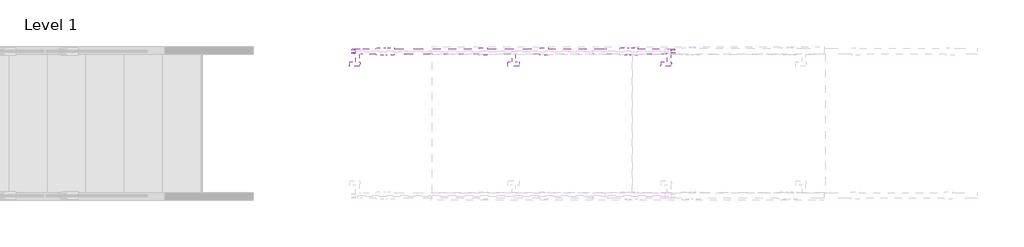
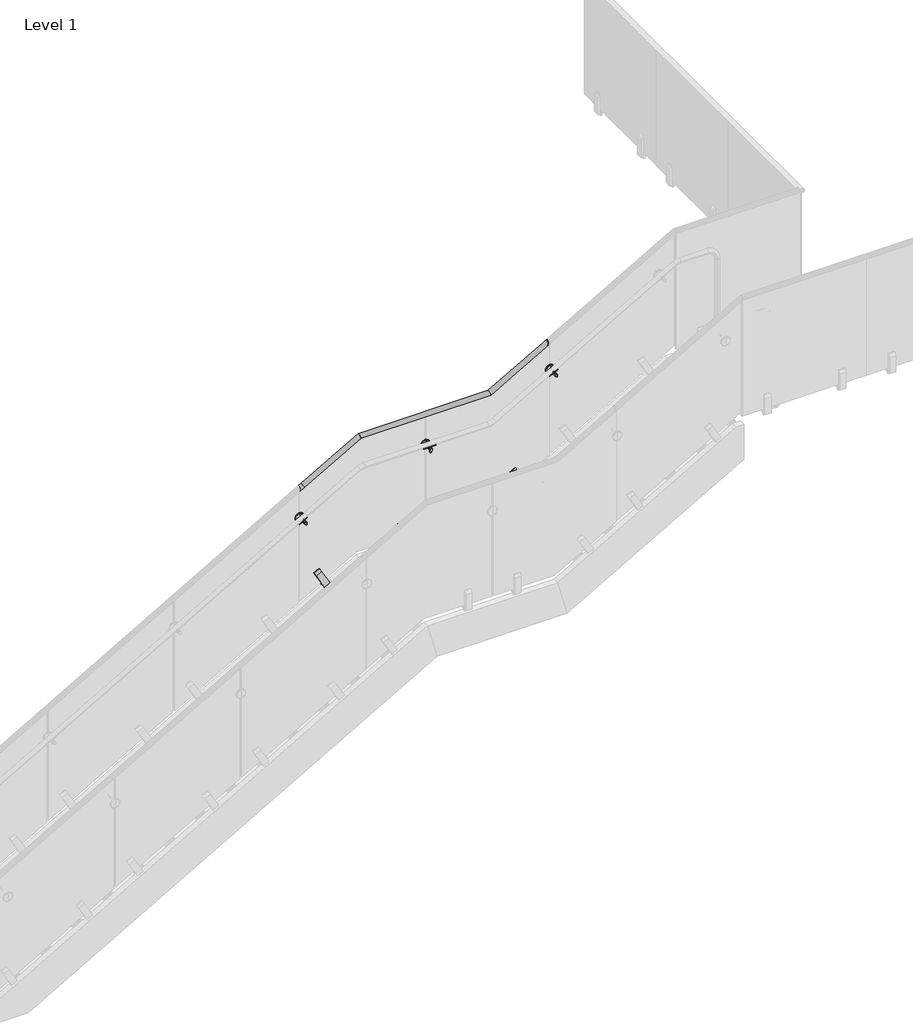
# One storey, part 6 of 17: 1 railing.
"""IFC4 building model written with IfcOpenShell, lengths in millimetres."""

from ifc_helpers import new_model, si_unit, point, frame, frame_2d, origin, place, context, project, spatial, polyline, circle_curve, ellipse_curve, trimmed, segment, composite_curve, outline, extrude, element, save
from ifc_brep_helpers import plane_surface, cylinder_surface, revolved_surface, advanced_brep

model = new_model("IFC4")

# Units and contexts
model_context = context("Model", 3, world=origin())
ifc_project = project(units=[si_unit("LENGTHUNIT", "METRE", prefix="MILLI")], contexts=[model_context])

# Site, building, storey
site = spatial("IfcSite", under=ifc_project)
building = spatial("IfcBuilding", under=site)
storey = spatial("IfcBuildingStorey", under=building, Name="Level 1", Elevation=0.0)

# Railing
placement = place(None, origin())
element("IfcRailing", 1, ObjectType="VIVA-VISIO-Glass-Steel Surface Mount-Stair-Landing", at=placement, inside=storey, context=model_context, shape_type="SolidModel", body=[
    advanced_brep(
    [(27409.6773931, -21080.9070565, 2977.4583674), (27409.7053311, -21103.8417549, 2977.4094758), (27869.7292424, -21103.8417549, 3240.2802823), (27869.7142882, -21080.9070565, 3240.3365932), (27408.4065092, -21086.0617549, 2979.6824142), (27869.0340321, -21086.0617549, 3242.8981415), (27396.2707818, -21086.0617549, 3000.9199372), (27862.5382355, -21086.0617549, 3267.3584821), (27396.2707818, -21098.7617549, 3000.9199372), (27862.5382355, -21098.7617549, 3267.3584821), (27408.4451382, -21098.7617549, 2979.6148134), (27869.0547087, -21098.7617549, 3242.8202823), (28936.5292424, -21103.8417549, 3240.2802823), (28936.5142882, -21080.9070565, 3240.3365932), (28935.8340321, -21086.0617549, 3242.8981415), (28929.3382355, -21086.0617549, 3267.3584821), (28929.3382355, -21098.7617549, 3267.3584821), (28935.8547087, -21098.7617549, 3242.8202823), (29408.2362561, -21103.8417549, 3509.8271473), (29408.2362561, -21098.7617549, 3512.7525951), (29408.2362561, -21098.7617549, 3541.0144939), (29408.2362561, -21086.0617549, 3541.0144939), (29408.2362561, -21086.0617549, 3512.8422695), (29408.2362561, -21080.9070565, 3509.8920034), (27369.8862561, -21103.8417549, 2954.6557187), (27369.8862561, -21080.9070565, 2954.7205748), (27369.8862561, -21086.0617549, 2957.670841), (27369.8862561, -21086.0617549, 2985.8430653), (27369.8862561, -21098.7617549, 2985.8430653), (27369.8862561, -21098.7617549, 2957.5811665)],
    [
        (0, 1, circle_curve(frame((27402.1441737, -21092.4117549, 2990.6415013), z_axis=(0.8682431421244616, 0.0, 0.49613893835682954), x_axis=(0.0, 1.0, 0.0)), 19.05)),
        (1, 2),
        (2, 3, ellipse_curve(frame((27865.6820404, -21092.4117549, 3255.5202823), z_axis=(-0.9664996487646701, 0.0, -0.2566679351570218), x_axis=(0.2566679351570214, 0.0, -0.9664996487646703)), 19.710302, 19.05)),
        (3, 0),
        (4, 0, circle_curve(frame((27408.4065092, -21082.8479446, 2979.6824142), z_axis=(0.8682431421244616, 0.0, 0.49613893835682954), x_axis=(0.0, 1.0, 0.0)), 3.2138103)),
        (3, 5, ellipse_curve(frame((27869.0340321, -21082.8479446, 3242.8981415), z_axis=(-0.9664996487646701, 0.0, -0.2566679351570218), x_axis=(0.2566679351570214, 0.0, -0.9664996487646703)), 3.3252058, 3.2138103)),
        (5, 4),
        (6, 4),
        (5, 7),
        (7, 6),
        (8, 6),
        (7, 9),
        (9, 8),
        (10, 8),
        (9, 11),
        (11, 10),
        (1, 10, circle_curve(frame((27408.4451382, -21101.9367549, 2979.6148134), z_axis=(0.8682431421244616, 0.0, 0.49613893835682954), x_axis=(0.0, 1.0, 0.0)), 3.175)),
        (11, 2, ellipse_curve(frame((27869.0547087, -21101.9367549, 3242.8202823), z_axis=(-0.9664996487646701, 0.0, -0.2566679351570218), x_axis=(0.2566679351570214, 0.0, -0.9664996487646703)), 3.2850503, 3.175)),
        (2, 12),
        (12, 13, ellipse_curve(frame((28932.4820404, -21092.4117549, 3255.5202823), z_axis=(-0.9664996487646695, 0.0, -0.25666793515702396), x_axis=(-0.2566679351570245, 0.0, 0.9664996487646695)), 19.710302, 19.05)),
        (13, 3),
        (13, 14, ellipse_curve(frame((28935.8340321, -21082.8479446, 3242.8981415), z_axis=(-0.9664996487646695, 0.0, -0.25666793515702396), x_axis=(-0.2566679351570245, 0.0, 0.9664996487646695)), 3.3252058, 3.2138103)),
        (14, 5),
        (14, 15),
        (15, 7),
        (15, 16),
        (16, 9),
        (16, 17),
        (17, 11),
        (17, 12, ellipse_curve(frame((28935.8547087, -21101.9367549, 3242.8202823), z_axis=(-0.9664996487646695, 0.0, -0.25666793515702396), x_axis=(-0.2566679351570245, 0.0, 0.9664996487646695)), 3.2850503, 3.175)),
        (18, 19, ellipse_curve(frame((29408.2362561, -21101.9367549, 3512.7525951), z_axis=(1.0, 0.0, 0.0), x_axis=(0.0, 0.0, -0.9999999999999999)), 3.6568098, 3.175)),
        (19, 20),
        (20, 21),
        (21, 22),
        (22, 23, ellipse_curve(frame((29408.2362561, -21082.8479446, 3512.8422695), z_axis=(1.0, 0.0, 0.0), x_axis=(0.0, 0.0, -0.9999999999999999)), 3.7015096, 3.2138103)),
        (23, 18, ellipse_curve(frame((29408.2362561, -21092.4117549, 3527.3798341), z_axis=(1.0, 0.0, 0.0), x_axis=(0.0, 0.0, -0.9999999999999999)), 21.9408586, 19.05)),
        (12, 18),
        (23, 13),
        (22, 14),
        (21, 15),
        (20, 16),
        (19, 17),
        (24, 25, ellipse_curve(frame((27369.8862561, -21092.4117549, 2972.2084056), z_axis=(-1.0, 0.0, 0.0), x_axis=(0.0, 0.0, -0.9999999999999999)), 21.9408586, 19.05)),
        (25, 26, ellipse_curve(frame((27369.8862561, -21082.8479446, 2957.670841), z_axis=(-1.0, 0.0, 0.0), x_axis=(0.0, 0.0, -0.9999999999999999)), 3.7015096, 3.2138103)),
        (26, 27),
        (27, 28),
        (28, 29),
        (29, 24, ellipse_curve(frame((27369.8862561, -21101.9367549, 2957.5811665), z_axis=(-1.0, 0.0, 0.0), x_axis=(0.0, 0.0, -0.9999999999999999)), 3.6568098, 3.175)),
        (24, 1),
        (0, 25),
        (4, 26),
        (6, 27),
        (8, 28),
        (10, 29),
    ],
    [
        cylinder_surface(frame((27402.1441737, -21092.4117549, 2990.6415013), z_axis=(-0.8682431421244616, 0.0, -0.49613893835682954), x_axis=(0.0, 1.0, 0.0)), 19.05),
        cylinder_surface(frame((27408.4065092, -21082.8479446, 2979.6824142), z_axis=(-0.8682431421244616, 0.0, -0.49613893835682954), x_axis=(0.0, 1.0, 0.0)), 3.2138103),
        plane_surface(frame((27408.4065092, -21086.0617549, 2979.6824142), z_axis=(0.0, -1.0, 0.0), x_axis=(0.86824314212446, 0.0, 0.49613893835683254))),
        plane_surface(frame((27396.2707818, -21086.0617549, 3000.9199372), z_axis=(0.4961389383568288, 0.0, -0.8682431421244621), x_axis=(0.8682431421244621, 0.0, 0.4961389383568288))),
        plane_surface(frame((27396.2707818, -21098.7617549, 3000.9199372), z_axis=(0.0, 1.0, 0.0), x_axis=(0.8682431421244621, 0.0, 0.4961389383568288))),
        cylinder_surface(frame((27408.4451382, -21101.9367549, 2979.6148134), z_axis=(-0.8682431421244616, 0.0, -0.49613893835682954), x_axis=(0.0, 1.0, 0.0)), 3.175),
        cylinder_surface(frame((27862.0112561, -21092.4117549, 3255.5202823), z_axis=(-1.0, 0.0, 0.0), x_axis=(0.0, 1.0, 0.0)), 19.05),
        cylinder_surface(frame((27862.0112561, -21082.8479446, 3242.8981415), z_axis=(-1.0, 0.0, 0.0), x_axis=(0.0, 1.0, 0.0)), 3.2138103),
        plane_surface(frame((27869.0340321, -21086.0617549, 3242.8981415), z_axis=(0.0, -1.0, 0.0), x_axis=(1.0, 0.0, 0.0))),
        plane_surface(frame((27862.5382355, -21086.0617549, 3267.3584821), z_axis=(0.0, 0.0, -1.0), x_axis=(1.0, 0.0, 0.0))),
        plane_surface(frame((27862.5382355, -21098.7617549, 3267.3584821), z_axis=(0.0, 1.0, 0.0), x_axis=(1.0, 0.0, 0.0))),
        cylinder_surface(frame((27862.0112561, -21101.9367549, 3242.8202823), z_axis=(-1.0, 0.0, 0.0), x_axis=(0.0, 1.0, 0.0)), 3.175),
        plane_surface(frame((29408.2362561, -21092.4117549, 3543.3), z_axis=(1.0, 0.0, 0.0), x_axis=(0.0, 1.0, 0.0))),
        cylinder_surface(frame((28935.6691737, -21092.4117549, 3257.3415013), z_axis=(-0.8682431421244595, 0.0, -0.49613893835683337), x_axis=(0.0, 1.0, 0.0)), 19.05),
        cylinder_surface(frame((28941.9315092, -21082.8479446, 3246.3824142), z_axis=(-0.8682431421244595, 0.0, -0.49613893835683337), x_axis=(0.0, 1.0, 0.0)), 3.2138103),
        plane_surface(frame((28935.8340321, -21086.0617549, 3242.8981415), z_axis=(0.0, -1.0, 0.0), x_axis=(0.8682431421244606, 0.0, 0.49613893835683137))),
        plane_surface(frame((28929.3382355, -21086.0617549, 3267.3584821), z_axis=(0.4961389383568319, 0.0, -0.8682431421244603), x_axis=(0.8682431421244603, 0.0, 0.4961389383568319))),
        plane_surface(frame((28929.3382355, -21098.7617549, 3267.3584821), z_axis=(0.0, 1.0, 0.0), x_axis=(0.8682431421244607, 0.0, 0.49613893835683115))),
        cylinder_surface(frame((28941.9701382, -21101.9367549, 3246.3148134), z_axis=(-0.8682431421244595, 0.0, -0.49613893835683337), x_axis=(0.0, 1.0, 0.0)), 3.175),
        plane_surface(frame((27369.8862561, -21092.4117549, 2988.1285714), z_axis=(-1.0, 0.0, 0.0), x_axis=(0.0, 1.0, 0.0))),
        cylinder_surface(frame((27376.7441737, -21092.4117549, 2976.1272156), z_axis=(-0.8682431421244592, 0.0, -0.4961389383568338), x_axis=(0.0, 1.0, 0.0)), 19.05),
        cylinder_surface(frame((27383.0065092, -21082.8479446, 2965.1681285), z_axis=(-0.8682431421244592, 0.0, -0.4961389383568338), x_axis=(0.0, 1.0, 0.0)), 3.2138103),
        plane_surface(frame((27369.8862561, -21086.0617549, 2957.670841), z_axis=(0.0, -1.0, 0.0), x_axis=(0.8682431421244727, 0.0, 0.49613893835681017))),
        plane_surface(frame((27369.8862561, -21086.0617549, 2985.8430653), z_axis=(0.49613893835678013, 0.0, -0.8682431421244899), x_axis=(0.8682431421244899, 0.0, 0.49613893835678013))),
        plane_surface(frame((27369.8862561, -21098.7617549, 2985.8430653), z_axis=(0.0, 1.0, 0.0), x_axis=(0.8682431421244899, 0.0, 0.49613893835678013))),
        cylinder_surface(frame((27383.0451382, -21101.9367549, 2965.1005277), z_axis=(-0.8682431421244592, 0.0, -0.4961389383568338), x_axis=(0.0, 1.0, 0.0)), 3.175),
    ],
    [
        (0, [[1, 2, 3, 4]]),
        (1, [[5, -4, 6, 7]]),
        (2, [[8, -7, 9, 10]]),
        (3, [[11, -10, 12, 13]]),
        (4, [[14, -13, 15, 16]]),
        (5, [[17, -16, 18, -2]]),
        (6, [[-3, 19, 20, 21]]),
        (7, [[-6, -21, 22, 23]]),
        (8, [[-9, -23, 24, 25]]),
        (9, [[-12, -25, 26, 27]]),
        (10, [[-15, -27, 28, 29]]),
        (11, [[-18, -29, 30, -19]]),
        (12, [[31, 32, 33, 34, 35, 36]]),
        (13, [[-20, 37, -36, 38]]),
        (14, [[-22, -38, -35, 39]]),
        (15, [[-24, -39, -34, 40]]),
        (16, [[-26, -40, -33, 41]]),
        (17, [[-28, -41, -32, 42]]),
        (18, [[-30, -42, -31, -37]]),
        (19, [[43, 44, 45, 46, 47, 48]]),
        (20, [[-43, 49, -1, 50]]),
        (21, [[-44, -50, -5, 51]]),
        (22, [[-45, -51, -8, 52]]),
        (23, [[-46, -52, -11, 53]]),
        (24, [[-47, -53, -14, 54]]),
        (25, [[-48, -54, -17, -49]]),
    ],
),
    extrude(outline(polyline([(0.0, -12.7), (0.0, 0.0), (50.8, 0.0), (50.8, -12.7), (0.0, -12.7)])), frame((29184.8878803, -21086.0617549, 2357.936753), z_axis=(-0.49613893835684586, 0.0, 0.8682431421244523), x_axis=(0.8682431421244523, 0.0, 0.49613893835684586)), (0.0, 0.0, 1.0), 50.8),
    extrude(outline(polyline([(0.0, 0.0), (139.7, 0.0), (166.6875, -11.1125), (166.6875, -19.05), (0.0, -19.05), (0.0, 0.0)])), frame((29177.7992952, -21117.8117549, 2370.3417769), z_axis=(0.8682431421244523, 0.0, 0.49613893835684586), x_axis=(-0.49613893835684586, 0.0, 0.8682431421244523)), (0.0, 0.0, 1.0), 50.8),
    extrude(outline(polyline([(0.0, -50.8), (0.0, -31.75), (166.6875, -31.75), (166.6875, -39.6875), (139.7, -50.8), (0.0, -50.8)])), frame((29177.7992952, -21117.8117549, 2370.3417769), z_axis=(0.8682431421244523, 0.0, 0.49613893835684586), x_axis=(-0.49613893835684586, 0.0, 0.8682431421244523)), (0.0, 0.0, 1.0), 50.8),
    extrude(outline(polyline([(28577.6562561, -21098.7617549), (28577.6562561, -21086.0617549), (28628.4562561, -21086.0617549), (28628.4562561, -21098.7617549), (28577.6562561, -21098.7617549)])), frame((0.0, 0.0, 2208.8928571), z_axis=(0.0, 0.0, 1.0), x_axis=(1.0, 0.0, 0.0)), (0.0, 0.0, 1.0), 50.8),
    extrude(outline(polyline([(-21117.8117549, 2223.1803571), (-21117.8117549, 2362.8803571), (-21106.6992549, 2389.8678571), (-21098.7617549, 2389.8678571), (-21098.7617549, 2223.1803571), (-21117.8117549, 2223.1803571)])), frame((28577.6562561, 0.0, 0.0), z_axis=(1.0, 0.0, 0.0), x_axis=(0.0, 1.0, 0.0)), (0.0, 0.0, 1.0), 50.8),
    extrude(outline(polyline([(-21067.0117549, 2223.1803571), (-21086.0617549, 2223.1803571), (-21086.0617549, 2389.8678571), (-21078.1242549, 2389.8678571), (-21067.0117549, 2362.8803571), (-21067.0117549, 2223.1803571)])), frame((28577.6562561, 0.0, 0.0), z_axis=(1.0, 0.0, 0.0), x_axis=(0.0, 1.0, 0.0)), (0.0, 0.0, 1.0), 50.8),
    extrude(outline(composite_curve([segment(trimmed(circle_curve(frame_2d((0.0, 7.0)), 7.0), [point((0.0, 14.0))], [point((0.0, 0.0))], False, "CARTESIAN"), True, "CONTINUOUS"), segment(trimmed(circle_curve(frame_2d((0.0, 7.0)), 7.0), [point((0.0, 0.0))], [point((0.0, 14.0))], False, "CARTESIAN"), True, "CONTINUOUS")], self_intersect=False)), frame((28401.7612561, -21167.6316158, 2977.3279722), z_axis=(-0.0016124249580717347, 0.0, 0.9999987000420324), x_axis=(-0.9999987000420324, 0.0, -0.0016124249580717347)), (0.0, 0.0, 1.0), 52.8378352),
    extrude(outline(composite_curve([segment(trimmed(circle_curve(frame_2d((18.6575252, 0.3952033)), 19.05), [point((5.2466064, 13.9247915))], [point((5.2466064, -13.134385))], True, "CARTESIAN"), True, "CONTINUOUS"), segment(polyline([(5.2466064, -13.134385), (4.2292193, -14.1607746)]), True, "CONTINUOUS"), segment(trimmed(circle_curve(frame_2d((3.1638974, -13.1047967)), 1.5), [point((4.2292193, -14.1607746))], [point((2.0329757, -14.0901982))], False, "CARTESIAN"), True, "CONTINUOUS"), segment(trimmed(circle_curve(frame_2d((18.6575252, 0.3952033)), 22.05), [point((2.0329757, -14.0901982))], [point((2.0329757, 14.8806047))], False, "CARTESIAN"), True, "CONTINUOUS"), segment(trimmed(circle_curve(frame_2d((3.1638974, 13.8952033)), 1.5), [point((2.0329757, 14.8806047))], [point((4.2292193, 14.9511811))], False, "CARTESIAN"), True, "CONTINUOUS"), segment(polyline([(4.2292193, 14.9511811), (5.2466064, 13.9247915)]), True, "CONTINUOUS")], self_intersect=False)), frame((28437.5288142, -21176.3588481, 3033.4996008), z_axis=(-0.9999989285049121, 0.0, 0.0014638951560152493), x_axis=(0.0014638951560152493, 0.0, 0.9999989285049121)), (0.0, 0.0, 1.0), 74.5229187),
    extrude(outline(composite_curve([segment(trimmed(circle_curve(frame_2d((3002.8968571, 28401.7612561)), 11.0132813), [point((3002.8968571, 28412.7745373))], [point((3002.8968571, 28390.7479748))], False, "CARTESIAN"), True, "CONTINUOUS"), segment(trimmed(circle_curve(frame_2d((3002.8968571, 28401.7612561)), 11.0132813), [point((3002.8968571, 28390.7479748))], [point((3002.8968571, 28412.7745373))], False, "CARTESIAN"), True, "CONTINUOUS")], self_intersect=False)), frame((0.0, -21187.6617549, 0.0), z_axis=(0.0, 1.0, 0.0), x_axis=(0.0, 0.0, 1.0)), (0.0, 0.0, 1.0), 79.2757812),
    advanced_brep(
    [(28401.7612561, -21076.4375361, 3002.8968571), (28401.7612561, -21076.4375361, 2966.7812321), (28401.7612561, -21076.4375361, 3039.0124821), (28401.7612561, -21108.3859736, 2966.7812321), (28401.7612561, -21108.3859736, 3002.8968571), (28401.7612561, -21108.3859736, 3039.0124821), (28401.7612561, -21106.4015986, 2964.7968571), (28401.7612561, -21106.4015986, 3040.9968571), (28401.7612561, -21098.7617549, 2964.7968571), (28401.7612561, -21098.7617549, 3040.9968571), (28401.7612561, -21098.7617549, 2990.1968571), (28401.7612561, -21098.7617549, 3015.5968571), (28401.7612561, -21086.0617549, 2990.1968571), (28401.7612561, -21086.0617549, 3015.5968571), (28401.7612561, -21086.0617549, 2964.7968571), (28401.7612561, -21086.0617549, 3040.9968571), (28401.7612561, -21078.4219111, 2964.7968571), (28401.7612561, -21078.4219111, 3040.9968571)],
    [
        (0, 1),
        (1, 2, circle_curve(frame((28401.7612561, -21076.4375361, 3002.8968571), z_axis=(0.0, 1.0, 0.0), x_axis=(0.0, 0.0, 1.0)), 36.115625)),
        (2, 0),
        (2, 1, circle_curve(frame((28401.7612561, -21076.4375361, 3002.8968571), z_axis=(0.0, 1.0, 0.0), x_axis=(0.0, 0.0, 1.0)), 36.115625)),
        (3, 4),
        (4, 5),
        (5, 3, circle_curve(frame((28401.7612561, -21108.3859736, 3002.8968571), z_axis=(0.0, -1.0, 0.0), x_axis=(0.0, 0.0, 1.0)), 36.115625)),
        (3, 5, circle_curve(frame((28401.7612561, -21108.3859736, 3002.8968571), z_axis=(0.0, -1.0, 0.0), x_axis=(0.0, 0.0, 1.0)), 36.115625)),
        (6, 3),
        (5, 7),
        (7, 6, circle_curve(frame((28401.7612561, -21106.4015986, 3002.8968571), z_axis=(0.0, -1.0, 0.0), x_axis=(0.0, 0.0, 1.0)), 38.1)),
        (6, 7, circle_curve(frame((28401.7612561, -21106.4015986, 3002.8968571), z_axis=(0.0, -1.0, 0.0), x_axis=(0.0, 0.0, 1.0)), 38.1)),
        (8, 6),
        (7, 9),
        (9, 8, circle_curve(frame((28401.7612561, -21098.7617549, 3002.8968571), z_axis=(0.0, -1.0, 0.0), x_axis=(0.0, 0.0, 1.0)), 38.1)),
        (8, 9, circle_curve(frame((28401.7612561, -21098.7617549, 3002.8968571), z_axis=(0.0, -1.0, 0.0), x_axis=(0.0, 0.0, 1.0)), 38.1)),
        (10, 8),
        (9, 11),
        (11, 10, circle_curve(frame((28401.7612561, -21098.7617549, 3002.8968571), z_axis=(0.0, -1.0, 0.0), x_axis=(0.0, 0.0, 1.0)), 12.7)),
        (10, 11, circle_curve(frame((28401.7612561, -21098.7617549, 3002.8968571), z_axis=(0.0, -1.0, 0.0), x_axis=(0.0, 0.0, 1.0)), 12.7)),
        (12, 10),
        (11, 13),
        (13, 12, circle_curve(frame((28401.7612561, -21086.0617549, 3002.8968571), z_axis=(0.0, -1.0, 0.0), x_axis=(0.0, 0.0, 1.0)), 12.7)),
        (12, 13, circle_curve(frame((28401.7612561, -21086.0617549, 3002.8968571), z_axis=(0.0, -1.0, 0.0), x_axis=(0.0, 0.0, 1.0)), 12.7)),
        (14, 12),
        (13, 15),
        (15, 14, circle_curve(frame((28401.7612561, -21086.0617549, 3002.8968571), z_axis=(0.0, -1.0, 0.0), x_axis=(0.0, 0.0, 1.0)), 38.1)),
        (14, 15, circle_curve(frame((28401.7612561, -21086.0617549, 3002.8968571), z_axis=(0.0, -1.0, 0.0), x_axis=(0.0, 0.0, 1.0)), 38.1)),
        (16, 14),
        (15, 17),
        (17, 16, circle_curve(frame((28401.7612561, -21078.4219111, 3002.8968571), z_axis=(0.0, -1.0, 0.0), x_axis=(0.0, 0.0, 1.0)), 38.1)),
        (16, 17, circle_curve(frame((28401.7612561, -21078.4219111, 3002.8968571), z_axis=(0.0, -1.0, 0.0), x_axis=(0.0, 0.0, 1.0)), 38.1)),
        (1, 16),
        (17, 2),
    ],
    [
        plane_surface(frame((28401.7612561, -21076.4375361, 3002.8968571), z_axis=(0.0, 1.0, 0.0), x_axis=(0.0, 0.0, 1.0))),
        plane_surface(frame((28401.7612561, -21108.3859736, 3002.8968571), z_axis=(0.0, -1.0, 0.0), x_axis=(0.0, 0.0, 1.0))),
        revolved_surface(polyline([(28401.7612561, -21108.3859736, 3039.0124821), (28401.7612561, -21106.4015986, 3040.9968571)]), (28401.7612561, -21040.3219111, 3002.8968571), (0.0, 1.0, 0.0)),
        cylinder_surface(frame((28401.7612561, -21040.3219111, 3002.8968571), z_axis=(0.0, 1.0, 0.0), x_axis=(0.0, 0.0, 1.0)), 38.1),
        plane_surface(frame((28401.7612561, -21098.7617549, 3002.8968571), z_axis=(0.0, 1.0, 0.0), x_axis=(0.0, 0.0, 1.0))),
        cylinder_surface(frame((28401.7612561, -21040.3219111, 3002.8968571), z_axis=(0.0, 1.0, 0.0), x_axis=(0.0, 0.0, 1.0)), 12.7),
        plane_surface(frame((28401.7612561, -21086.0617549, 3002.8968571), z_axis=(0.0, -1.0, 0.0), x_axis=(0.0, 0.0, 1.0))),
        revolved_surface(polyline([(28401.7612561, -21078.4219111, 3040.9968571), (28401.7612561, -21076.4375361, 3039.0124821)]), (28401.7612561, -21040.3219111, 3002.8968571), (0.0, 1.0, 0.0)),
    ],
    [
        (0, [[1, 2, 3]]),
        (0, [[-3, 4, -1]]),
        (1, [[5, 6, 7]]),
        (1, [[-6, -5, 8]]),
        (2, [[9, -7, 10, 11]]),
        (2, [[-10, -8, -9, 12]]),
        (3, [[13, -11, 14, 15]]),
        (3, [[-14, -12, -13, 16]]),
        (4, [[17, -15, 18, 19]]),
        (4, [[-18, -16, -17, 20]]),
        (5, [[21, -19, 22, 23]]),
        (5, [[-22, -20, -21, 24]]),
        (6, [[25, -23, 26, 27]]),
        (6, [[-26, -24, -25, 28]]),
        (3, [[29, -27, 30, 31]]),
        (3, [[-30, -28, -29, 32]]),
        (7, [[33, -31, 34, -2]]),
        (7, [[-34, -32, -33, -4]]),
    ],
),
    extrude(outline(polyline([(28175.0662561, -21098.7617549), (28175.0662561, -21086.0617549), (28225.8662561, -21086.0617549), (28225.8662561, -21098.7617549), (28175.0662561, -21098.7617549)])), frame((0.0, 0.0, 2208.8928571), z_axis=(0.0, 0.0, 1.0), x_axis=(1.0, 0.0, 0.0)), (0.0, 0.0, 1.0), 50.8),
    extrude(outline(polyline([(-21117.8117549, 2223.1803571), (-21117.8117549, 2362.8803571), (-21106.6992549, 2389.8678571), (-21098.7617549, 2389.8678571), (-21098.7617549, 2223.1803571), (-21117.8117549, 2223.1803571)])), frame((28175.0662561, 0.0, 0.0), z_axis=(1.0, 0.0, 0.0), x_axis=(0.0, 1.0, 0.0)), (0.0, 0.0, 1.0), 50.8),
    extrude(outline(polyline([(-21067.0117549, 2223.1803571), (-21086.0617549, 2223.1803571), (-21086.0617549, 2389.8678571), (-21078.1242549, 2389.8678571), (-21067.0117549, 2362.8803571), (-21067.0117549, 2223.1803571)])), frame((28175.0662561, 0.0, 0.0), z_axis=(1.0, 0.0, 0.0), x_axis=(0.0, 1.0, 0.0)), (0.0, 0.0, 1.0), 50.8),
    extrude(outline(polyline([(0.0, -12.7), (0.0, 0.0), (50.8, 0.0), (50.8, -12.7), (0.0, -12.7)])), frame((27574.5278803, -21086.0617549, 2047.3310387), z_axis=(-0.49613893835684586, 0.0, 0.8682431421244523), x_axis=(0.8682431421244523, 0.0, 0.49613893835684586)), (0.0, 0.0, 1.0), 50.8),
    extrude(outline(polyline([(0.0, 0.0), (139.7, 0.0), (166.6875, -11.1125), (166.6875, -19.05), (0.0, -19.05), (0.0, 0.0)])), frame((27567.4392952, -21117.8117549, 2059.7360626), z_axis=(0.8682431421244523, 0.0, 0.49613893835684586), x_axis=(-0.49613893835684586, 0.0, 0.8682431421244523)), (0.0, 0.0, 1.0), 50.8),
    extrude(outline(polyline([(0.0, -50.8), (0.0, -31.75), (166.6875, -31.75), (166.6875, -39.6875), (139.7, -50.8), (0.0, -50.8)])), frame((27567.4392952, -21117.8117549, 2059.7360626), z_axis=(0.8682431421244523, 0.0, 0.49613893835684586), x_axis=(-0.49613893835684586, 0.0, 0.8682431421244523)), (0.0, 0.0, 1.0), 50.8),
    extrude(outline(composite_curve([segment(trimmed(circle_curve(frame_2d((0.0, 7.0)), 7.0), [point((0.0, 14.0))], [point((0.0, 0.0))], False, "CARTESIAN"), True, "CONTINUOUS"), segment(trimmed(circle_curve(frame_2d((0.0, 7.0)), 7.0), [point((0.0, 0.0))], [point((0.0, 14.0))], False, "CARTESIAN"), True, "CONTINUOUS")], self_intersect=False)), frame((29438.8124492, -21167.6316158, 3274.0214845), z_axis=(-0.5018548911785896, 0.0, 0.8649518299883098), x_axis=(-0.8649518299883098, 0.0, -0.5018548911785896)), (0.0, 0.0, 1.0), 52.8378352),
    extrude(outline(composite_curve([segment(polyline([(5.2466063, -13.9247915), (4.2292193, -14.9511811)]), True, "CONTINUOUS"), segment(trimmed(circle_curve(frame_2d((3.1638973, -13.8952033)), 1.5), [point((4.2292193, -14.9511811))], [point((2.0329756, -14.8806047))], False, "CARTESIAN"), True, "CONTINUOUS"), segment(trimmed(circle_curve(frame_2d((18.6575251, -0.3952033)), 22.05), [point((2.0329756, -14.8806047))], [point((2.0329756, 14.0901982))], False, "CARTESIAN"), True, "CONTINUOUS"), segment(trimmed(circle_curve(frame_2d((3.1638973, 13.1047967)), 1.5), [point((2.0329756, 14.0901982))], [point((4.2292193, 14.1607746))], False, "CARTESIAN"), True, "CONTINUOUS"), segment(polyline([(4.2292193, 14.1607746), (5.2466063, 13.134385)]), True, "CONTINUOUS"), segment(trimmed(circle_curve(frame_2d((18.6575251, -0.3952033)), 19.05), [point((5.2466063, 13.134385))], [point((5.2466063, -13.9247915))], True, "CARTESIAN"), True, "CONTINUOUS")], self_intersect=False)), frame((29374.3446671, -21176.3588481, 3301.7626674), z_axis=(0.8664916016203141, 0.0, 0.49919165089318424), x_axis=(-0.49919165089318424, 0.0, 0.8664916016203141)), (0.0, 0.0, 1.0), 74.5229187),
    extrude(outline(composite_curve([segment(trimmed(circle_curve(frame_2d((3296.158, 29426.0162561)), 11.0132813), [point((3296.158, 29437.0295373))], [point((3296.158, 29415.0029748))], False, "CARTESIAN"), True, "CONTINUOUS"), segment(trimmed(circle_curve(frame_2d((3296.158, 29426.0162561)), 11.0132813), [point((3296.158, 29415.0029748))], [point((3296.158, 29437.0295373))], False, "CARTESIAN"), True, "CONTINUOUS")], self_intersect=False)), frame((0.0, -21187.6617549, 0.0), z_axis=(0.0, 1.0, 0.0), x_axis=(0.0, 0.0, 1.0)), (0.0, 0.0, 1.0), 79.2757812),
    advanced_brep(
    [(29426.0162561, -21076.4375361, 3296.158), (29426.0162561, -21076.4375361, 3260.042375), (29426.0162561, -21076.4375361, 3332.273625), (29426.0162561, -21108.3859736, 3260.042375), (29426.0162561, -21108.3859736, 3296.158), (29426.0162561, -21108.3859736, 3332.273625), (29426.0162561, -21106.4015986, 3258.058), (29426.0162561, -21106.4015986, 3334.258), (29426.0162561, -21098.7617549, 3258.058), (29426.0162561, -21098.7617549, 3334.258), (29426.0162561, -21098.7617549, 3283.458), (29426.0162561, -21098.7617549, 3308.858), (29426.0162561, -21086.0617549, 3283.458), (29426.0162561, -21086.0617549, 3308.858), (29426.0162561, -21086.0617549, 3258.058), (29426.0162561, -21086.0617549, 3334.258), (29426.0162561, -21078.4219111, 3258.058), (29426.0162561, -21078.4219111, 3334.258)],
    [
        (0, 1),
        (1, 2, circle_curve(frame((29426.0162561, -21076.4375361, 3296.158), z_axis=(0.0, 1.0, 0.0), x_axis=(0.0, 0.0, 1.0)), 36.115625)),
        (2, 0),
        (2, 1, circle_curve(frame((29426.0162561, -21076.4375361, 3296.158), z_axis=(0.0, 1.0, 0.0), x_axis=(0.0, 0.0, 1.0)), 36.115625)),
        (3, 4),
        (4, 5),
        (5, 3, circle_curve(frame((29426.0162561, -21108.3859736, 3296.158), z_axis=(0.0, -1.0, 0.0), x_axis=(0.0, 0.0, 1.0)), 36.115625)),
        (3, 5, circle_curve(frame((29426.0162561, -21108.3859736, 3296.158), z_axis=(0.0, -1.0, 0.0), x_axis=(0.0, 0.0, 1.0)), 36.115625)),
        (6, 3),
        (5, 7),
        (7, 6, circle_curve(frame((29426.0162561, -21106.4015986, 3296.158), z_axis=(0.0, -1.0, 0.0), x_axis=(0.0, 0.0, 1.0)), 38.1)),
        (6, 7, circle_curve(frame((29426.0162561, -21106.4015986, 3296.158), z_axis=(0.0, -1.0, 0.0), x_axis=(0.0, 0.0, 1.0)), 38.1)),
        (8, 6),
        (7, 9),
        (9, 8, circle_curve(frame((29426.0162561, -21098.7617549, 3296.158), z_axis=(0.0, -1.0, 0.0), x_axis=(0.0, 0.0, 1.0)), 38.1)),
        (8, 9, circle_curve(frame((29426.0162561, -21098.7617549, 3296.158), z_axis=(0.0, -1.0, 0.0), x_axis=(0.0, 0.0, 1.0)), 38.1)),
        (10, 8),
        (9, 11),
        (11, 10, circle_curve(frame((29426.0162561, -21098.7617549, 3296.158), z_axis=(0.0, -1.0, 0.0), x_axis=(0.0, 0.0, 1.0)), 12.7)),
        (10, 11, circle_curve(frame((29426.0162561, -21098.7617549, 3296.158), z_axis=(0.0, -1.0, 0.0), x_axis=(0.0, 0.0, 1.0)), 12.7)),
        (12, 10),
        (11, 13),
        (13, 12, circle_curve(frame((29426.0162561, -21086.0617549, 3296.158), z_axis=(0.0, -1.0, 0.0), x_axis=(0.0, 0.0, 1.0)), 12.7)),
        (12, 13, circle_curve(frame((29426.0162561, -21086.0617549, 3296.158), z_axis=(0.0, -1.0, 0.0), x_axis=(0.0, 0.0, 1.0)), 12.7)),
        (14, 12),
        (13, 15),
        (15, 14, circle_curve(frame((29426.0162561, -21086.0617549, 3296.158), z_axis=(0.0, -1.0, 0.0), x_axis=(0.0, 0.0, 1.0)), 38.1)),
        (14, 15, circle_curve(frame((29426.0162561, -21086.0617549, 3296.158), z_axis=(0.0, -1.0, 0.0), x_axis=(0.0, 0.0, 1.0)), 38.1)),
        (16, 14),
        (15, 17),
        (17, 16, circle_curve(frame((29426.0162561, -21078.4219111, 3296.158), z_axis=(0.0, -1.0, 0.0), x_axis=(0.0, 0.0, 1.0)), 38.1)),
        (16, 17, circle_curve(frame((29426.0162561, -21078.4219111, 3296.158), z_axis=(0.0, -1.0, 0.0), x_axis=(0.0, 0.0, 1.0)), 38.1)),
        (1, 16),
        (17, 2),
    ],
    [
        plane_surface(frame((29426.0162561, -21076.4375361, 3296.158), z_axis=(0.0, 1.0, 0.0), x_axis=(0.0, 0.0, 1.0))),
        plane_surface(frame((29426.0162561, -21108.3859736, 3296.158), z_axis=(0.0, -1.0, 0.0), x_axis=(0.0, 0.0, 1.0))),
        revolved_surface(polyline([(29426.0162561, -21108.3859736, 3332.273625), (29426.0162561, -21106.4015986, 3334.258)]), (29426.0162561, -21040.3219111, 3296.158), (0.0, 1.0, 0.0)),
        cylinder_surface(frame((29426.0162561, -21040.3219111, 3296.158), z_axis=(0.0, 1.0, 0.0), x_axis=(0.0, 0.0, 1.0)), 38.1),
        plane_surface(frame((29426.0162561, -21098.7617549, 3296.158), z_axis=(0.0, 1.0, 0.0), x_axis=(0.0, 0.0, 1.0))),
        cylinder_surface(frame((29426.0162561, -21040.3219111, 3296.158), z_axis=(0.0, 1.0, 0.0), x_axis=(0.0, 0.0, 1.0)), 12.7),
        plane_surface(frame((29426.0162561, -21086.0617549, 3296.158), z_axis=(0.0, -1.0, 0.0), x_axis=(0.0, 0.0, 1.0))),
        revolved_surface(polyline([(29426.0162561, -21078.4219111, 3334.258), (29426.0162561, -21076.4375361, 3332.273625)]), (29426.0162561, -21040.3219111, 3296.158), (0.0, 1.0, 0.0)),
    ],
    [
        (0, [[1, 2, 3]]),
        (0, [[-3, 4, -1]]),
        (1, [[5, 6, 7]]),
        (1, [[-6, -5, 8]]),
        (2, [[9, -7, 10, 11]]),
        (2, [[-10, -8, -9, 12]]),
        (3, [[13, -11, 14, 15]]),
        (3, [[-14, -12, -13, 16]]),
        (4, [[17, -15, 18, 19]]),
        (4, [[-18, -16, -17, 20]]),
        (5, [[21, -19, 22, 23]]),
        (5, [[-22, -20, -21, 24]]),
        (6, [[25, -23, 26, 27]]),
        (6, [[-26, -24, -25, 28]]),
        (3, [[29, -27, 30, 31]]),
        (3, [[-30, -28, -29, 32]]),
        (7, [[33, -31, 34, -2]]),
        (7, [[-34, -32, -33, -4]]),
    ],
),
    extrude(outline(composite_curve([segment(trimmed(circle_curve(frame_2d((0.0, 7.0)), 7.0), [point((0.0, 14.0))], [point((0.0, 0.0))], False, "CARTESIAN"), True, "CONTINUOUS"), segment(trimmed(circle_curve(frame_2d((0.0, 7.0)), 7.0), [point((0.0, 0.0))], [point((0.0, 14.0))], False, "CARTESIAN"), True, "CONTINUOUS")], self_intersect=False)), frame((27382.6824492, -21167.6316158, 2708.6900559), z_axis=(-0.5018548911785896, 0.0, 0.8649518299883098), x_axis=(-0.8649518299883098, 0.0, -0.5018548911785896)), (0.0, 0.0, 1.0), 52.8378352),
    extrude(outline(composite_curve([segment(polyline([(5.2466063, -13.9247915), (4.2292193, -14.9511811)]), True, "CONTINUOUS"), segment(trimmed(circle_curve(frame_2d((3.1638973, -13.8952033)), 1.5), [point((4.2292193, -14.9511811))], [point((2.0329756, -14.8806047))], False, "CARTESIAN"), True, "CONTINUOUS"), segment(trimmed(circle_curve(frame_2d((18.6575251, -0.3952033)), 22.05), [point((2.0329756, -14.8806047))], [point((2.0329756, 14.0901982))], False, "CARTESIAN"), True, "CONTINUOUS"), segment(trimmed(circle_curve(frame_2d((3.1638973, 13.1047967)), 1.5), [point((2.0329756, 14.0901982))], [point((4.2292193, 14.1607746))], False, "CARTESIAN"), True, "CONTINUOUS"), segment(polyline([(4.2292193, 14.1607746), (5.2466063, 13.134385)]), True, "CONTINUOUS"), segment(trimmed(circle_curve(frame_2d((18.6575251, -0.3952033)), 19.05), [point((5.2466063, 13.134385))], [point((5.2466063, -13.9247915))], True, "CARTESIAN"), True, "CONTINUOUS")], self_intersect=False)), frame((27318.2146671, -21176.3588481, 2736.4312388), z_axis=(0.8664916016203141, 0.0, 0.49919165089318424), x_axis=(-0.49919165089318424, 0.0, 0.8664916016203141)), (0.0, 0.0, 1.0), 74.5229187),
    extrude(outline(composite_curve([segment(trimmed(circle_curve(frame_2d((2730.8265714, 27369.8862561)), 11.0132813), [point((2730.8265714, 27380.8995373))], [point((2730.8265714, 27358.8729748))], False, "CARTESIAN"), True, "CONTINUOUS"), segment(trimmed(circle_curve(frame_2d((2730.8265714, 27369.8862561)), 11.0132813), [point((2730.8265714, 27358.8729748))], [point((2730.8265714, 27380.8995373))], False, "CARTESIAN"), True, "CONTINUOUS")], self_intersect=False)), frame((0.0, -21187.6617549, 0.0), z_axis=(0.0, 1.0, 0.0), x_axis=(0.0, 0.0, 1.0)), (0.0, 0.0, 1.0), 79.2757812),
    advanced_brep(
    [(27369.8862561, -21076.4375361, 2730.8265714), (27369.8862561, -21076.4375361, 2694.7109464), (27369.8862561, -21076.4375361, 2766.9421964), (27369.8862561, -21108.3859736, 2694.7109464), (27369.8862561, -21108.3859736, 2730.8265714), (27369.8862561, -21108.3859736, 2766.9421964), (27369.8862561, -21106.4015986, 2692.7265714), (27369.8862561, -21106.4015986, 2768.9265714), (27369.8862561, -21098.7617549, 2692.7265714), (27369.8862561, -21098.7617549, 2768.9265714), (27369.8862561, -21098.7617549, 2718.1265714), (27369.8862561, -21098.7617549, 2743.5265714), (27369.8862561, -21086.0617549, 2718.1265714), (27369.8862561, -21086.0617549, 2743.5265714), (27369.8862561, -21086.0617549, 2692.7265714), (27369.8862561, -21086.0617549, 2768.9265714), (27369.8862561, -21078.4219111, 2692.7265714), (27369.8862561, -21078.4219111, 2768.9265714)],
    [
        (0, 1),
        (1, 2, circle_curve(frame((27369.8862561, -21076.4375361, 2730.8265714), z_axis=(0.0, 1.0, 0.0), x_axis=(0.0, 0.0, 1.0)), 36.115625)),
        (2, 0),
        (2, 1, circle_curve(frame((27369.8862561, -21076.4375361, 2730.8265714), z_axis=(0.0, 1.0, 0.0), x_axis=(0.0, 0.0, 1.0)), 36.115625)),
        (3, 4),
        (4, 5),
        (5, 3, circle_curve(frame((27369.8862561, -21108.3859736, 2730.8265714), z_axis=(0.0, -1.0, 0.0), x_axis=(0.0, 0.0, 1.0)), 36.115625)),
        (3, 5, circle_curve(frame((27369.8862561, -21108.3859736, 2730.8265714), z_axis=(0.0, -1.0, 0.0), x_axis=(0.0, 0.0, 1.0)), 36.115625)),
        (6, 3),
        (5, 7),
        (7, 6, circle_curve(frame((27369.8862561, -21106.4015986, 2730.8265714), z_axis=(0.0, -1.0, 0.0), x_axis=(0.0, 0.0, 1.0)), 38.1)),
        (6, 7, circle_curve(frame((27369.8862561, -21106.4015986, 2730.8265714), z_axis=(0.0, -1.0, 0.0), x_axis=(0.0, 0.0, 1.0)), 38.1)),
        (8, 6),
        (7, 9),
        (9, 8, circle_curve(frame((27369.8862561, -21098.7617549, 2730.8265714), z_axis=(0.0, -1.0, 0.0), x_axis=(0.0, 0.0, 1.0)), 38.1)),
        (8, 9, circle_curve(frame((27369.8862561, -21098.7617549, 2730.8265714), z_axis=(0.0, -1.0, 0.0), x_axis=(0.0, 0.0, 1.0)), 38.1)),
        (10, 8),
        (9, 11),
        (11, 10, circle_curve(frame((27369.8862561, -21098.7617549, 2730.8265714), z_axis=(0.0, -1.0, 0.0), x_axis=(0.0, 0.0, 1.0)), 12.7)),
        (10, 11, circle_curve(frame((27369.8862561, -21098.7617549, 2730.8265714), z_axis=(0.0, -1.0, 0.0), x_axis=(0.0, 0.0, 1.0)), 12.7)),
        (12, 10),
        (11, 13),
        (13, 12, circle_curve(frame((27369.8862561, -21086.0617549, 2730.8265714), z_axis=(0.0, -1.0, 0.0), x_axis=(0.0, 0.0, 1.0)), 12.7)),
        (12, 13, circle_curve(frame((27369.8862561, -21086.0617549, 2730.8265714), z_axis=(0.0, -1.0, 0.0), x_axis=(0.0, 0.0, 1.0)), 12.7)),
        (14, 12),
        (13, 15),
        (15, 14, circle_curve(frame((27369.8862561, -21086.0617549, 2730.8265714), z_axis=(0.0, -1.0, 0.0), x_axis=(0.0, 0.0, 1.0)), 38.1)),
        (14, 15, circle_curve(frame((27369.8862561, -21086.0617549, 2730.8265714), z_axis=(0.0, -1.0, 0.0), x_axis=(0.0, 0.0, 1.0)), 38.1)),
        (16, 14),
        (15, 17),
        (17, 16, circle_curve(frame((27369.8862561, -21078.4219111, 2730.8265714), z_axis=(0.0, -1.0, 0.0), x_axis=(0.0, 0.0, 1.0)), 38.1)),
        (16, 17, circle_curve(frame((27369.8862561, -21078.4219111, 2730.8265714), z_axis=(0.0, -1.0, 0.0), x_axis=(0.0, 0.0, 1.0)), 38.1)),
        (1, 16),
        (17, 2),
    ],
    [
        plane_surface(frame((27369.8862561, -21076.4375361, 2730.8265714), z_axis=(0.0, 1.0, 0.0), x_axis=(0.0, 0.0, 1.0))),
        plane_surface(frame((27369.8862561, -21108.3859736, 2730.8265714), z_axis=(0.0, -1.0, 0.0), x_axis=(0.0, 0.0, 1.0))),
        revolved_surface(polyline([(27369.8862561, -21108.3859736, 2766.9421964), (27369.8862561, -21106.4015986, 2768.9265714)]), (27369.8862561, -21040.3219111, 2730.8265714), (0.0, 1.0, 0.0)),
        cylinder_surface(frame((27369.8862561, -21040.3219111, 2730.8265714), z_axis=(0.0, 1.0, 0.0), x_axis=(0.0, 0.0, 1.0)), 38.1),
        plane_surface(frame((27369.8862561, -21098.7617549, 2730.8265714), z_axis=(0.0, 1.0, 0.0), x_axis=(0.0, 0.0, 1.0))),
        cylinder_surface(frame((27369.8862561, -21040.3219111, 2730.8265714), z_axis=(0.0, 1.0, 0.0), x_axis=(0.0, 0.0, 1.0)), 12.7),
        plane_surface(frame((27369.8862561, -21086.0617549, 2730.8265714), z_axis=(0.0, -1.0, 0.0), x_axis=(0.0, 0.0, 1.0))),
        revolved_surface(polyline([(27369.8862561, -21078.4219111, 2768.9265714), (27369.8862561, -21076.4375361, 2766.9421964)]), (27369.8862561, -21040.3219111, 2730.8265714), (0.0, 1.0, 0.0)),
    ],
    [
        (0, [[1, 2, 3]]),
        (0, [[-3, 4, -1]]),
        (1, [[5, 6, 7]]),
        (1, [[-6, -5, 8]]),
        (2, [[9, -7, 10, 11]]),
        (2, [[-10, -8, -9, 12]]),
        (3, [[13, -11, 14, 15]]),
        (3, [[-14, -12, -13, 16]]),
        (4, [[17, -15, 18, 19]]),
        (4, [[-18, -16, -17, 20]]),
        (5, [[21, -19, 22, 23]]),
        (5, [[-22, -20, -21, 24]]),
        (6, [[25, -23, 26, 27]]),
        (6, [[-26, -24, -25, 28]]),
        (3, [[29, -27, 30, 31]]),
        (3, [[-30, -28, -29, 32]]),
        (7, [[33, -31, 34, -2]]),
        (7, [[-34, -32, -33, -4]]),
    ],
),
])

save(model, "model.ifc")
